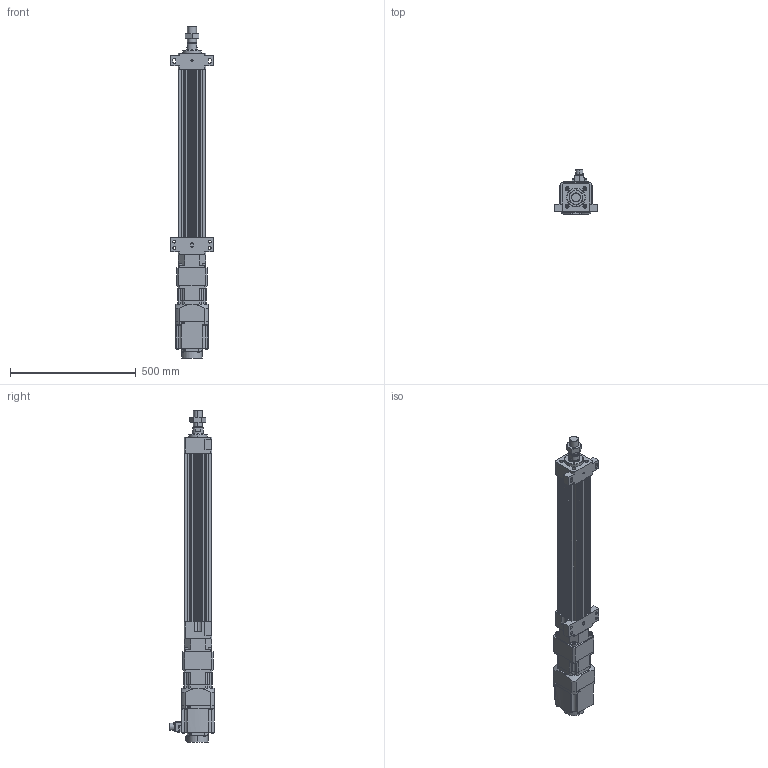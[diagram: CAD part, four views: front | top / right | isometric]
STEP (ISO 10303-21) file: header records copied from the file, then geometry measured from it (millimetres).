
FILE_DESCRIPTION (( 'STEP AP203' ), '1' );
FILE_NAME ('HES110NS(HS)-S500-W015G00-M-FFB.STEP', '2023-01-27T12:12:05', ( 'tms' ), ( '' ), 'SwSTEP 2.0', 'SolidWorks 2013', '' );
FILE_SCHEMA (( 'CONFIG_CONTROL_DESIGN' ));
Length unit declared in the file: millimetre
Products named in the file (8): HES110 ROD M ST500; P0401400706; HES110NS(HS)-S500-W015G00-M-FFB; AB1151; HG-SR152; M36X1.5P; AB115-003[HG-SR152]; HES110-S500-G120-FFB
Assembly tree (7 placements, depth 3):
  HES110NS(HS)-S500-W015G00-M-FFB
    HES110-S500-G120-FFB
    HES110 ROD M ST500
    M36X1.5P
    AB115-003[HG-SR152]
      AB1151
      P0401400706
    HG-SR152
Bounding box: 170 x 177.49 x 1321.5 mm (x, y, z)
Volume: 8534550 mm3; surface area: 1201925.6 mm2
Topology: 4 solids, 15 shells, 1194 faces, 3023 edges, 1968 vertices
Faces by surface type: plane 571, cylinder 531, cone 80, bspline 8, torus 4
Entity records: 37745 total; most frequent: CARTESIAN_POINT 7162, DIRECTION 6520, ORIENTED_EDGE 5998, EDGE_CURVE 3009, AXIS2_PLACEMENT_3D 2386, VERTEX_POINT 1968, VECTOR 1748, LINE 1748
